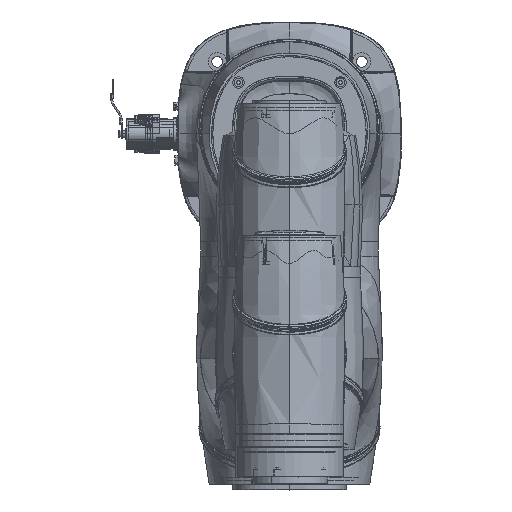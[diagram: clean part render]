
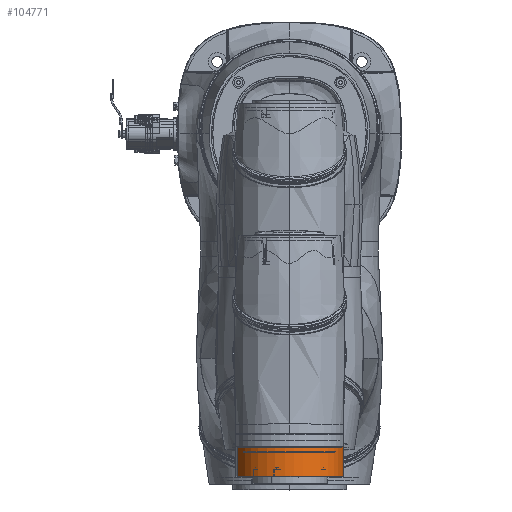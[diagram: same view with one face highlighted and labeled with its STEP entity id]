
A CAD part, top view. The second image highlights one B-rep face of the part: STEP entity #104771.
In plain terms, the highlighted cylindrical face has radius 45 mm (diameter 90 mm), a partial arc.
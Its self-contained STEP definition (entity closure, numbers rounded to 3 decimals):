
#102648=CARTESIAN_POINT('',(20.2,0.,0.));
#102649=DIRECTION('',(-1.,0.,0.));
#102650=DIRECTION('',(0.,-0.966,0.259));
#102651=AXIS2_PLACEMENT_3D('',#102648,#102649,#102650);
#102662=DIRECTION('',(-1.,0.,0.));
#102663=VECTOR('',#102662,24.3);
#102664=CARTESIAN_POINT('',(20.2,43.467,-11.647));
#102665=LINE('',#102664,#102663);
#102674=DIRECTION('',(-1.,0.,0.));
#102675=VECTOR('',#102674,24.3);
#102676=CARTESIAN_POINT('',(20.2,-43.467,11.647));
#102677=LINE('',#102676,#102675);
#102678=CARTESIAN_POINT('',(-4.1,0.,0.));
#102679=DIRECTION('',(1.,0.,0.));
#102680=DIRECTION('',(0.,0.966,-0.259));
#102681=AXIS2_PLACEMENT_3D('',#102678,#102679,#102680);
#104140=CARTESIAN_POINT('',(20.2,43.467,-11.647));
#104141=VERTEX_POINT('',#104140);
#104142=CARTESIAN_POINT('',(20.2,-43.467,11.647));
#104143=VERTEX_POINT('',#104142);
#104144=CARTESIAN_POINT('',(-4.1,43.467,-11.647));
#104145=VERTEX_POINT('',#104144);
#104146=CARTESIAN_POINT('',(-4.1,-43.467,11.647));
#104147=VERTEX_POINT('',#104146);
#104759=CARTESIAN_POINT('',(28.045,0.,0.));
#104760=DIRECTION('',(-1.,0.,0.));
#104761=DIRECTION('',(0.,0.966,-0.259));
#104762=AXIS2_PLACEMENT_3D('',#104759,#104760,#104761);
#104763=CYLINDRICAL_SURFACE('',#104762,45.);
#104764=ORIENTED_EDGE('',*,*,#104739,.F.);
#104765=ORIENTED_EDGE('',*,*,#104716,.F.);
#104766=ORIENTED_EDGE('',*,*,#104743,.T.);
#104768=ORIENTED_EDGE('',*,*,#104767,.F.);
#104769=EDGE_LOOP('',(#104764,#104765,#104766,#104768));
#104770=FACE_OUTER_BOUND('',#104769,.F.);
#102652=CIRCLE('',#102651,45.);
#102682=CIRCLE('',#102681,45.);
#104716=EDGE_CURVE('',#104143,#104141,#102652,.T.);
#104739=EDGE_CURVE('',#104141,#104145,#102665,.T.);
#104743=EDGE_CURVE('',#104143,#104147,#102677,.T.);
#104767=EDGE_CURVE('',#104145,#104147,#102682,.T.);
#104771=ADVANCED_FACE('',(#104770),#104763,.T.);
